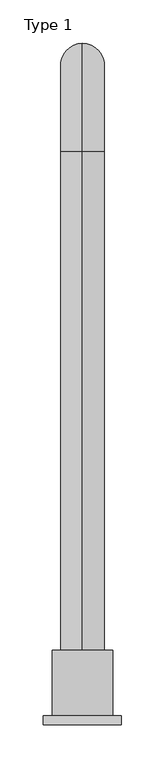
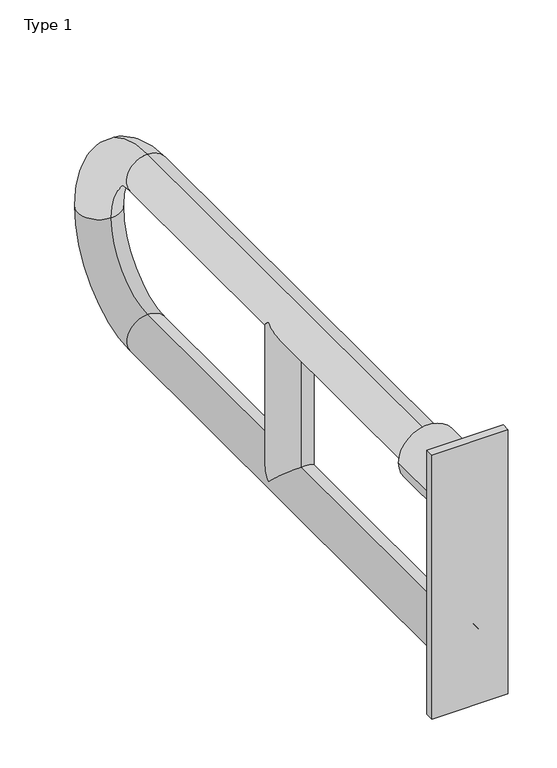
"""IFC4 building model written with IfcOpenShell, lengths in millimetres: proxy geometry, BIMHealth-Grab_Rail_Drop_Down-LOD2A-v1 : Type 1."""

from ifc_helpers import new_model, si_unit, point, frame, frame_2d, origin, place, context, project, spatial, polyline, circle_curve, ellipse_curve, trimmed, segment, composite_curve, outline, extrude, source, transform, mapped, element, save
from ifc_brep_helpers import plane_surface, cylinder_surface, revolved_surface, advanced_brep


def type_1_04eb1ea4(model_context):
    return source(origin(), model_context, "Body", "SolidModel", [
        advanced_brep(
        [(125.0, 135.7700007, 655.0), (125.0, 135.7700007, 705.0), (125.0, 70.0, 505.0), (125.0, 70.0, 455.0), (125.0, 395.0, 655.0), (150.0, 420.0, 680.0), (125.0, 445.0, 655.0), (125.0, 710.0, 655.0), (125.0, 710.0, 705.0), (100.0, 420.0, 680.0), (125.0, 785.0, 580.0), (125.0, 835.0, 580.0), (125.0, 710.0, 505.0), (125.0, 710.0, 455.0), (125.0, 445.0, 505.0), (150.0, 420.0, 480.0), (125.0, 395.0, 505.0), (100.0, 420.0, 480.0)],
        [
            (0, 1, circle_curve(frame((125.0, 135.7700007, 680.0), z_axis=(0.0, -1.0, 0.0), x_axis=(0.0, 0.0, 1.0)), 25.0)),
            (1, 0, circle_curve(frame((125.0, 135.7700007, 680.0), z_axis=(0.0, -1.0, 0.0), x_axis=(0.0, 0.0, 1.0)), 25.0)),
            (2, 3, circle_curve(frame((125.0, 70.0, 480.0), z_axis=(0.0, -1.0, 0.0), x_axis=(0.0, 0.0, -1.0)), 25.0)),
            (3, 2, circle_curve(frame((125.0, 70.0, 480.0), z_axis=(0.0, -1.0, 0.0), x_axis=(0.0, 0.0, -1.0)), 25.0)),
            (0, 4),
            (4, 5, ellipse_curve(frame((125.0, 420.0, 680.0), z_axis=(0.0, -0.7071067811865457, 0.7071067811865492), x_axis=(0.0, -0.7071067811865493, -0.7071067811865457)), 35.3553391, 25.0)),
            (5, 6, ellipse_curve(frame((125.0, 420.0, 680.0), z_axis=(0.0, 0.7071067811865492, 0.7071067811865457), x_axis=(0.0, -0.7071067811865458, 0.7071067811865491)), 35.3553391, 25.0)),
            (6, 7),
            (7, 8, circle_curve(frame((125.0, 710.0, 680.0), z_axis=(0.0, -1.0, 0.0), x_axis=(0.0, 0.0, 1.0)), 25.0)),
            (8, 1),
            (8, 7, circle_curve(frame((125.0, 710.0, 680.0), z_axis=(0.0, -1.0, 0.0), x_axis=(0.0, 0.0, 1.0)), 25.0)),
            (6, 9, ellipse_curve(frame((125.0, 420.0, 680.0), z_axis=(0.0, 0.7071067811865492, 0.7071067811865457), x_axis=(0.0, -0.7071067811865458, 0.7071067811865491)), 35.3553391, 25.0)),
            (9, 4, ellipse_curve(frame((125.0, 420.0, 680.0), z_axis=(0.0, -0.7071067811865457, 0.7071067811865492), x_axis=(0.0, -0.7071067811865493, -0.7071067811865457)), 35.3553391, 25.0)),
            (7, 10, circle_curve(frame((125.0, 710.0, 580.0), z_axis=(-1.0, 0.0, 0.0), x_axis=(0.0, 0.0, 1.0)), 75.0)),
            (10, 11, circle_curve(frame((125.0, 810.0, 580.0), z_axis=(0.0, 0.0, 1.0), x_axis=(0.0, 1.0, 0.0)), 25.0)),
            (11, 8, circle_curve(frame((125.0, 710.0, 580.0), z_axis=(1.0, 0.0, 0.0), x_axis=(0.0, 0.0, 1.0)), 125.0)),
            (11, 10, circle_curve(frame((125.0, 810.0, 580.0), z_axis=(0.0, 0.0, 1.0), x_axis=(0.0, 1.0, 0.0)), 25.0)),
            (10, 12, circle_curve(frame((125.0, 710.0, 580.0), z_axis=(-1.0, 0.0, 0.0), x_axis=(0.0, 1.0, 0.0)), 75.0)),
            (12, 13, circle_curve(frame((125.0, 710.0, 480.0), z_axis=(0.0, 1.0, 0.0), x_axis=(0.0, 0.0, -1.0)), 25.0)),
            (13, 11, circle_curve(frame((125.0, 710.0, 580.0), z_axis=(1.0, 0.0, 0.0), x_axis=(0.0, 1.0, 0.0)), 125.0)),
            (13, 12, circle_curve(frame((125.0, 710.0, 480.0), z_axis=(0.0, 1.0, 0.0), x_axis=(0.0, 0.0, -1.0)), 25.0)),
            (3, 13),
            (12, 14),
            (14, 15, ellipse_curve(frame((125.0, 420.0, 480.0), z_axis=(0.0, 0.7071067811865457, -0.7071067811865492), x_axis=(0.0, 0.7071067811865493, 0.7071067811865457)), 35.3553391, 25.0)),
            (15, 16, ellipse_curve(frame((125.0, 420.0, 480.0), z_axis=(0.0, -0.7071067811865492, -0.7071067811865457), x_axis=(0.0, 0.7071067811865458, -0.7071067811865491)), 35.3553391, 25.0)),
            (16, 2),
            (16, 17, ellipse_curve(frame((125.0, 420.0, 480.0), z_axis=(0.0, -0.7071067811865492, -0.7071067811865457), x_axis=(0.0, 0.7071067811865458, -0.7071067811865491)), 35.3553391, 25.0)),
            (17, 14, ellipse_curve(frame((125.0, 420.0, 480.0), z_axis=(0.0, 0.7071067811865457, -0.7071067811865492), x_axis=(0.0, 0.7071067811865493, 0.7071067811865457)), 35.3553391, 25.0)),
            (4, 16),
            (14, 6),
        ],
        [
            plane_surface(frame((125.0, 135.7700007, 680.0), z_axis=(0.0, -1.0, 0.0), x_axis=(1.0, 0.0, 0.0))),
            plane_surface(frame((125.0, 70.0, 480.0), z_axis=(0.0, -1.0, 0.0), x_axis=(1.0, 0.0, 0.0))),
            cylinder_surface(frame((125.0, 135.7700007, 680.0), z_axis=(0.0, -1.0, 0.0), x_axis=(0.0, 0.0, 1.0)), 25.0),
            revolved_surface(trimmed(ellipse_curve(frame((125.0, 710.0, 680.0), z_axis=(0.0, -1.0, 0.0), x_axis=(0.0, 0.0, 1.0)), 25.0, 25.0), [point((125.0, 710.0, 655.0))], [point((125.0, 710.0, 705.0))], True, "CARTESIAN"), (125.0, 710.0, 580.0), (-1.0, 0.0, 0.0)),
            revolved_surface(trimmed(ellipse_curve(frame((125.0, 710.0, 680.0), z_axis=(0.0, -1.0, 0.0), x_axis=(0.0, 0.0, 1.0)), 25.0, 25.0), [point((125.0, 710.0, 705.0))], [point((125.0, 710.0, 655.0))], True, "CARTESIAN"), (125.0, 710.0, 580.0), (-1.0, 0.0, 0.0)),
            revolved_surface(trimmed(ellipse_curve(frame((125.0, 810.0, 580.0), z_axis=(0.0, 0.0, 1.0), x_axis=(0.0, 1.0, 0.0)), 25.0, 25.0), [point((125.0, 785.0, 580.0))], [point((125.0, 835.0, 580.0))], True, "CARTESIAN"), (125.0, 710.0, 580.0), (-1.0, 0.0, 0.0)),
            revolved_surface(trimmed(ellipse_curve(frame((125.0, 810.0, 580.0), z_axis=(0.0, 0.0, 1.0), x_axis=(0.0, 1.0, 0.0)), 25.0, 25.0), [point((125.0, 835.0, 580.0))], [point((125.0, 785.0, 580.0))], True, "CARTESIAN"), (125.0, 710.0, 580.0), (-1.0, 0.0, 0.0)),
            cylinder_surface(frame((125.0, 710.0, 480.0), z_axis=(0.0, 1.0, 0.0), x_axis=(0.0, 0.0, -1.0)), 25.0),
            cylinder_surface(frame((125.0, 420.0, 480.0), z_axis=(0.0, 0.0, -1.0), x_axis=(0.0, -1.0, 0.0)), 25.0),
        ],
        [
            (0, [[1, 2]]),
            (1, [[3, 4]]),
            (2, [[-1, 5, 6, 7, 8, 9, 10]]),
            (2, [[-2, -10, 11, -8, 12, 13, -5]]),
            (3, [[-9, 14, 15, 16]]),
            (4, [[-11, -16, 17, -14]]),
            (5, [[-15, 18, 19, 20]]),
            (6, [[-17, -20, 21, -18]]),
            (7, [[-4, 22, -19, 23, 24, 25, 26]]),
            (7, [[-3, -26, 27, 28, -23, -21, -22]]),
            (8, [[29, -25, -24, 30, -7, -6]]),
            (8, [[-29, -13, -12, -30, -28, -27]]),
        ],
    ),
        extrude(outline(composite_curve([segment(trimmed(circle_curve(frame_2d((680.0, 125.0)), 35.0), [point((680.0, 160.0))], [point((680.0, 90.0))], False, "CARTESIAN"), True, "CONTINUOUS"), segment(trimmed(circle_curve(frame_2d((680.0, 125.0)), 35.0), [point((680.0, 90.0))], [point((680.0, 160.0))], False, "CARTESIAN"), True, "CONTINUOUS")], self_intersect=False)), frame((0.0, 60.0, 0.0), z_axis=(0.0, 1.0, 0.0), x_axis=(0.0, 0.0, 1.0)), (0.0, 0.0, 1.0), 75.7700007),
        extrude(outline(composite_curve([segment(trimmed(circle_curve(frame_2d((480.0, 125.0)), 35.0), [point((480.0, 160.0))], [point((480.0, 90.0))], False, "CARTESIAN"), True, "CONTINUOUS"), segment(trimmed(circle_curve(frame_2d((480.0, 125.0)), 35.0), [point((480.0, 90.0))], [point((480.0, 160.0))], False, "CARTESIAN"), True, "CONTINUOUS")], self_intersect=False)), frame((0.0, 60.0, 0.0), z_axis=(0.0, 1.0, 0.0), x_axis=(0.0, 0.0, 1.0)), (0.0, 0.0, 1.0), 10.0),
        extrude(outline(polyline([(170.0, 50.0), (80.0, 50.0), (80.0, 60.0), (170.0, 60.0), (170.0, 50.0)])), frame((0.0, 0.0, 415.0), z_axis=(0.0, 0.0, 1.0), x_axis=(1.0, 0.0, 0.0)), (0.0, 0.0, 1.0), 330.0),
    ])


if __name__ == "__main__":
    model = new_model("IFC4")
    model_context = context("Model", 3, world=origin())
    ifc_project = project(units=[si_unit("LENGTHUNIT", "METRE", prefix="MILLI")], contexts=[model_context])
    site = spatial("IfcSite", under=ifc_project)
    building = spatial("IfcBuilding", under=site)
    placement = place(None, origin())
    type_1_shape = type_1_04eb1ea4(model_context)
    element("IfcBuildingElementProxy", 1, Name="BIMHealth-Grab_Rail_Drop_Down-LOD2A-v1 : Type 1", ObjectType="BIMHealth-Grab_Rail_Drop_Down-LOD2A-v1 : Type 1", at=placement, inside=building, context=model_context, shape_type="MappedRepresentation", body=[
        mapped(type_1_shape, transform((0.0, 0.0, 0.0), x_axis=(1.0, 0.0, 0.0), y_axis=(0.0, 1.0, 0.0), z_axis=(0.0, 0.0, 1.0))),
    ])
    save(model, "model.ifc")
